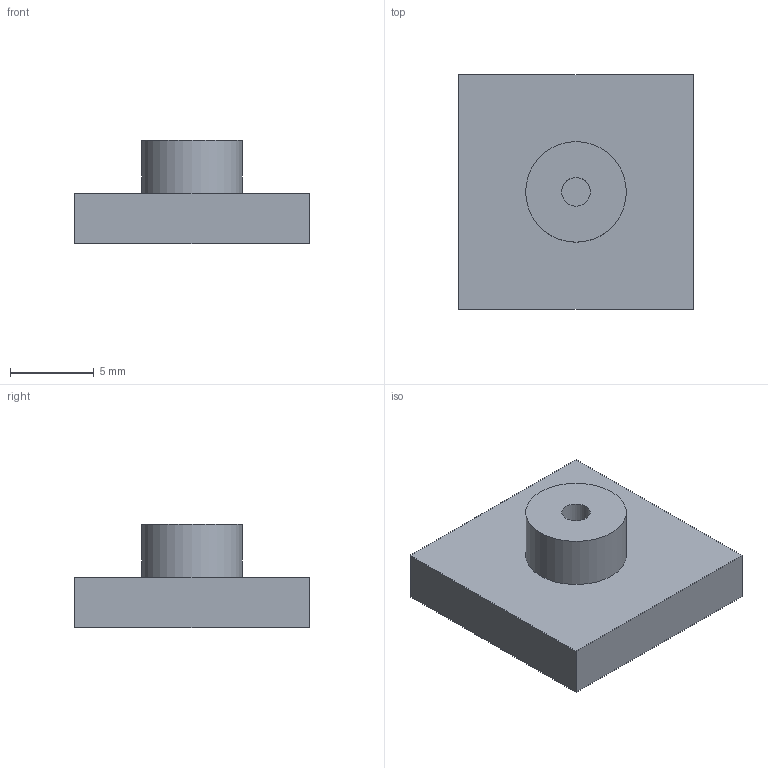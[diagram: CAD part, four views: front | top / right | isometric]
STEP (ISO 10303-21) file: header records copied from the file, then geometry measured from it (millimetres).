
FILE_DESCRIPTION(('Open CASCADE Model'),'2;1');
FILE_NAME('Open CASCADE Shape Model','2026-09-15T13:32:55',('Author'),( 'Open CASCADE'),'Open CASCADE STEP processor 7.7','Open CASCADE 7.7' ,'Unknown');
FILE_SCHEMA(('AUTOMOTIVE_DESIGN { 1 0 10303 214 1 1 1 1 }'));
Length unit declared in the file: millimetre
Products named in the file (1): QP02_M2_PILOT_D1.7
Bounding box: 14 x 14 x 6.15 mm (x, y, z)
Volume: 668.4 mm3; surface area: 639.7 mm2
Topology: 1 solids, 1 shells, 10 faces, 18 edges, 12 vertices
Faces by surface type: plane 8, cylinder 2
Full cylindrical faces by diameter (mm): 1.7 x1, 6 x1
Entity records: 490 total; most frequent: DIRECTION 80, CARTESIAN_POINT 77, LINE 46, VECTOR 46, ORIENTED_EDGE 36, PCURVE 36, DEFINITIONAL_REPRESENTATION 36, EDGE_CURVE 18
